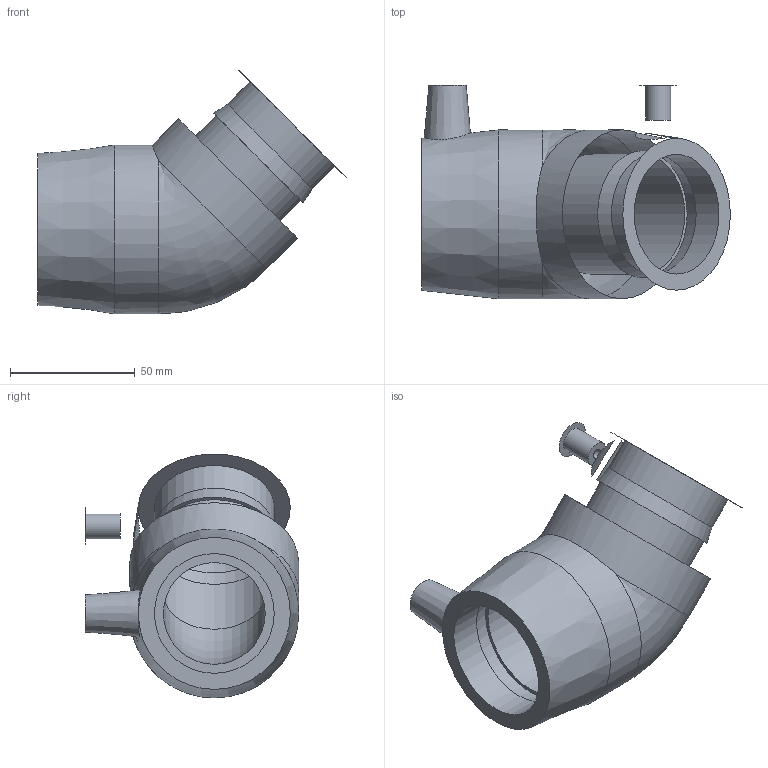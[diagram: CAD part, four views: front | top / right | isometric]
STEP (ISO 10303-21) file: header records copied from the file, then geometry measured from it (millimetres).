
FILE_DESCRIPTION(/* description */ ('PLASSON 45° ELBOW 1 1/2'''''),/* implementation_level */ '2;1');
FILE_NAME(/* name */ 'C:\Dropbox\KIMPROJECTS-Inventor 2019\99-16-3568-Processing Inch\ASTM ElectroFusion 2021\5906B\5906B003015.ipt.stp',/* time_stamp */ '2021-08-30T09:50:03+03:00',/* author */ ('KIM'),/* organization */ (''),/* preprocessor_version */ 'ST-DEVELOPER v17.2',/* originating_system */ 'Autodesk Inventor 2019',/* authorisation */ '');
FILE_SCHEMA (('AUTOMOTIVE_DESIGN { 1 0 10303 214 3 1 1 }'));
Length unit declared in the file: inch
Products named in the file (1): 5906B003015
Bounding box: 123.95 x 85.72 x 97.89 mm (x, y, z)
Volume: 208844.9 mm3; surface area: 49089.7 mm2
Topology: 1 solids, 1 shells, 30 faces, 66 edges, 46 vertices
Faces by surface type: plane 12, cylinder 10, cone 6, bspline 1, torus 1
Full cylindrical faces by diameter (mm): 4 x2, 10 x2, 48.1 x4, 67.818 x2
Entity records: 981 total; most frequent: CARTESIAN_POINT 235, DIRECTION 164, ORIENTED_EDGE 128, AXIS2_PLACEMENT_3D 74, EDGE_CURVE 64, VERTEX_POINT 46, CIRCLE 43, EDGE_LOOP 42
